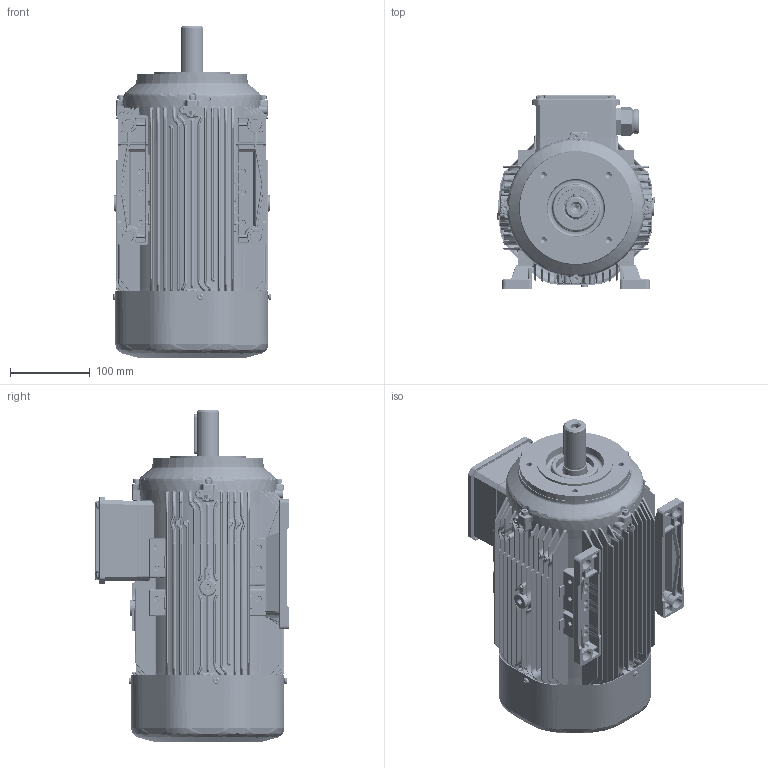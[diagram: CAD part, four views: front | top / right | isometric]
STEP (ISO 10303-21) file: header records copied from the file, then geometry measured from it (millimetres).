
FILE_DESCRIPTION(/* description */ (''),/* implementation_level */ '2;1');
FILE_NAME(/* name */ 'OUTLOOK VIEW QH100 PC B34 - REDUCED FT115 SPL.stp',/* time_stamp */ '2021-09-13T11:38:17+03:00',/* author */ (''),/* organization */ (''),/* preprocessor_version */ 'ST-DEVELOPER v16',/* originating_system */ 'SIEMENS PLM Software NX 11.0',/* authorisation */ '');
FILE_SCHEMA (('AUTOMOTIVE_DESIGN { 1 0 10303 214 3 1 1 1 }'));
Products named in the file (1): 26062CE45B9Cd4f6
Bounding box: 197.75 x 242.65 x 415.31 mm (x, y, z)
Volume: 5195758.5 mm3; surface area: 1992767.3 mm2
Topology: 74 solids, 74 shells, 12313 faces, 30023 edges, 17435 vertices
Faces by surface type: cylinder 3870, bspline 3714, plane 2938, torus 718, cone 570, sphere 438, extrusion 65
Full cylindrical faces by diameter (mm): 3.242 x4, 3.3 x4, 4 x9, 4.722 x3, 5 x20, 5.5 x4, 6.8 x4, 8 x8, 8.5 x9, 10 x1, 10.5 x1, 18.7 x1, 23.38 x2, 23.9 x1, 24.4 x1, 24.8 x1, 25 x5, 25.2 x1, 27.4 x1, 28 x1, 28.6 x1, 29.4 x1, 30 x3, 31.6 x1, 32 x1, 34 x2, 34.35 x8, 40 x1, 43.95 x4, 44.6 x4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
Entity records: 489451 total; most frequent: CARTESIAN_POINT 173526, ORIENTED_EDGE 57386, DIRECTION 52717, EDGE_CURVE 28693, AXIS2_PLACEMENT_3D 21484, VERTEX_POINT 17217, EDGE_LOOP 13426, ADVANCED_FACE 12293
